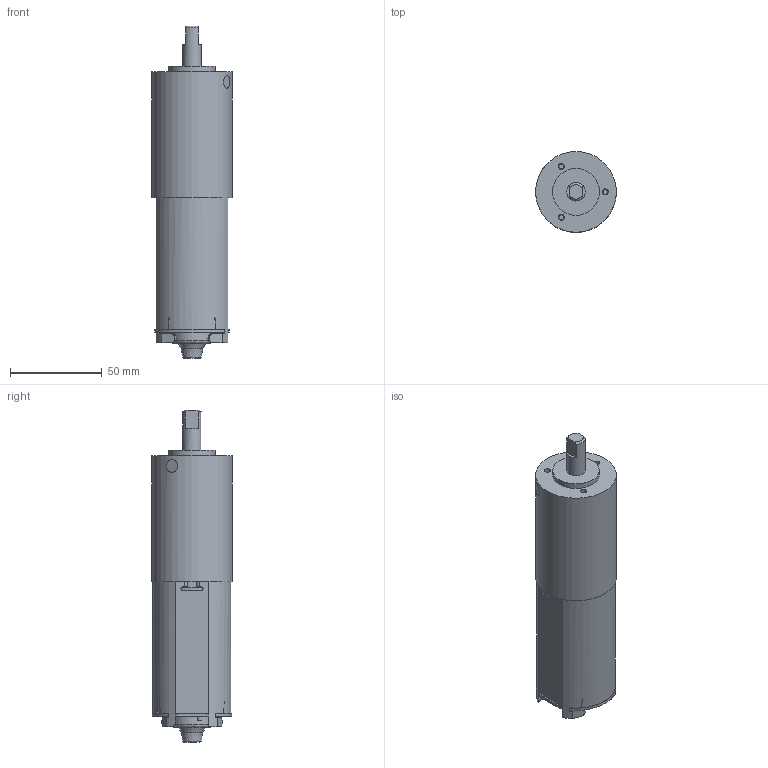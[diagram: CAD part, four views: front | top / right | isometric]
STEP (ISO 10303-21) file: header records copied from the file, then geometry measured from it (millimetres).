
FILE_DESCRIPTION (( 'STEP AP214' ), '1' );
FILE_NAME ('404636.step', '2018-06-28T08:48:12', ( '' ), ( '' ), 'SwSTEP 2.0', 'SolidWorks 2010', '' );
FILE_SCHEMA (( 'AUTOMOTIVE_DESIGN' ));
Length unit declared in the file: millimetre
Products named in the file (3): Motor-404636-KGK; Shaft-404636-KGK; 404636
Assembly tree (2 placements, depth 2):
  404636
    Shaft-404636-KGK
    Motor-404636-KGK
Bounding box: 44 x 44 x 181 mm (x, y, z)
Volume: 141112.9 mm3; surface area: 40425.2 mm2
Topology: 2 solids, 2 shells, 196 faces, 562 edges, 363 vertices
Faces by surface type: plane 124, cylinder 63, cone 7, bspline 2
Full cylindrical faces by diameter (mm): 1.3 x6, 2.3 x4, 3.3 x3, 7 x2, 10 x1, 22.4 x1, 25.5 x1, 34.7 x1, 35 x1, 38 x1, 38.5 x1, 44 x1
Entity records: 6692 total; most frequent: CARTESIAN_POINT 1530, DIRECTION 1065, ORIENTED_EDGE 1044, EDGE_CURVE 522, AXIS2_PLACEMENT_3D 394, VERTEX_POINT 353, VECTOR 277, LINE 277
